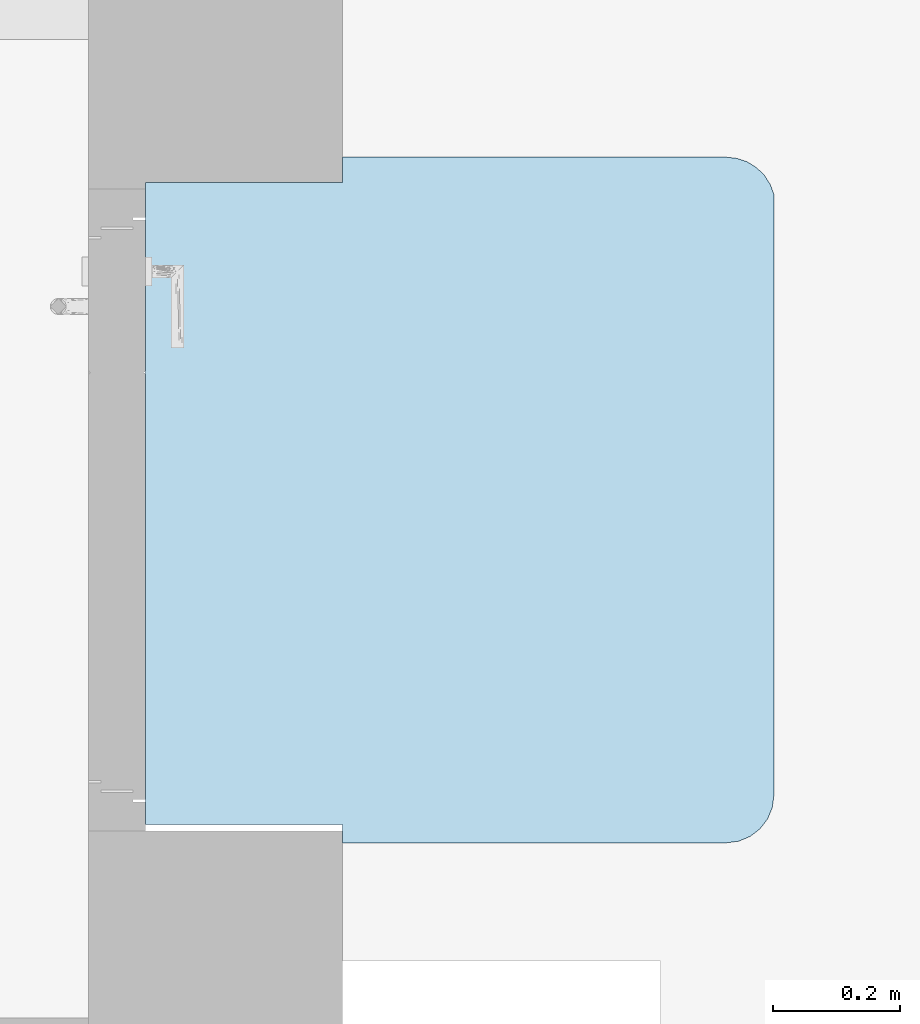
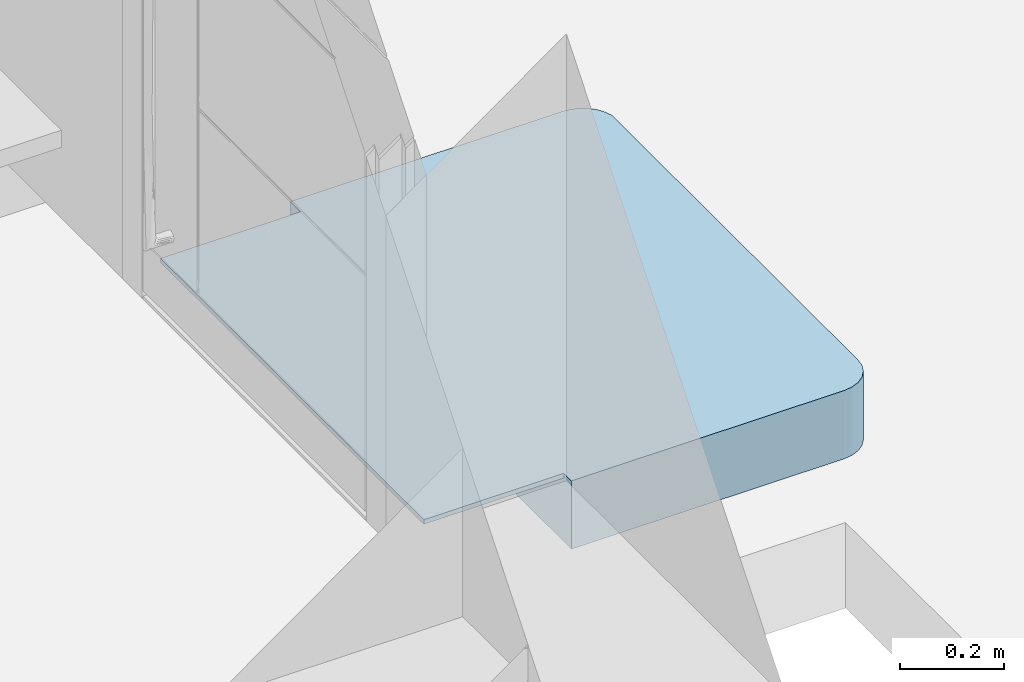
# One storey, part 5 of 18: 1 slab.
"""IFC2X3 building model written with IfcOpenShell, lengths in metres."""

from ifc_helpers import new_model, entity, si_unit, converted_unit, derived_unit, direction, frame, origin, place, context, subcontext, project, spatial, faceted_brep, material, type_object, element, save


model = new_model("IFC2X3")

# Units and contexts
model_context = context("Model", 3, precision=1e-05, world=origin(), true_north=direction((6.123233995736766e-17, 1.0)))
body_context = subcontext(model_context, "Body", "Model", "MODEL_VIEW")
ifc_project = project(units=[si_unit("LENGTHUNIT", "METRE"), si_unit("AREAUNIT", "SQUARE_METRE"), si_unit("VOLUMEUNIT", "CUBIC_METRE"), si_unit("POWERUNIT", "WATT"), derived_unit("USERDEFINED", [(si_unit("MASSUNIT", "GRAM", prefix="KILO"), 1), (si_unit("TIMEUNIT", "SECOND"), -3)]), derived_unit("THERMALRESISTANCEUNIT", [(si_unit("MASSUNIT", "GRAM", prefix="KILO"), -1), (si_unit("TIMEUNIT", "SECOND"), 3), (si_unit("THERMODYNAMICTEMPERATUREUNIT", "KELVIN"), 1)]), derived_unit("USERDEFINED", [(si_unit("MASSUNIT", "GRAM", prefix="KILO"), 1), (si_unit("TIMEUNIT", "SECOND"), -2), (si_unit("THERMODYNAMICTEMPERATUREUNIT", "KELVIN"), -1)]), derived_unit("THERMALTRANSMITTANCEUNIT", [(si_unit("MASSUNIT", "GRAM", prefix="KILO"), 1), (si_unit("TIMEUNIT", "SECOND"), -3), (si_unit("THERMODYNAMICTEMPERATUREUNIT", "KELVIN"), -1)]), converted_unit("PLANEANGLEUNIT", "DEGREE", entity("IfcPlaneAngleMeasure", 0.017453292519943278), si_unit("PLANEANGLEUNIT", "RADIAN"), dimensions=[0, 0, 0, 0, 0, 0, 0]), derived_unit("MOMENTOFINERTIAUNIT", [(si_unit("LENGTHUNIT", "METRE"), 4)])], contexts=[model_context])

# Site, building, storey
site_placement = place(None, origin())
site = spatial("IfcSite", under=ifc_project, at=site_placement, Name="Default", CompositionType="ELEMENT")
building_placement = place(site_placement, origin())
building = spatial("IfcBuilding", under=site, at=building_placement, CompositionType="ELEMENT")
storey_placement = place(building_placement, frame((0.0, 0.0, 2.6)))
storey = spatial("IfcBuildingStorey", under=building, at=storey_placement, Name="Erdgeschoss", CompositionType="ELEMENT", Elevation=2.6)

# Slab
ifc_material = material(Name="Ortbeton - bewehrt")
slab_type = type_object("IfcSlabType", Name="Geschossdecke:STB 160", PredefinedType="FLOOR")
slab_placement = place(storey_placement, origin())
element("IfcSlab", 1, at=slab_placement, inside=storey, type_object=slab_type, material=ifc_material, Name="Geschossdecke:STB 160", ObjectType="Geschossdecke:STB 160", PredefinedType="FLOOR", context=body_context, shape_type="Brep", body=[
    faceted_brep([(39.28339740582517, 20.60022500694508, -0.14921312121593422), (39.26786439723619, 20.588306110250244, -0.14921312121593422), (39.24977582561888, 20.5808135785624, -0.14921312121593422), (39.2303643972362, 20.57825801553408, -0.14921312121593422), (38.62672000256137, 20.57825801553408, -0.14921312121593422), (38.62672000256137, 21.657272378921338, -0.14921312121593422), (39.2303643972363, 21.657272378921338, -0.14921312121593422), (39.24737164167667, 21.655374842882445, -0.14921312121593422), (39.26354244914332, 21.649775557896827, -0.14921312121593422), (39.27808151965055, 21.640749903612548, -0.14921312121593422), (39.29027380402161, 21.628741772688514, -0.14921312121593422), (39.299519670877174, 21.61434173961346, -0.14921312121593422), (39.305364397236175, 21.598258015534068, -0.14921312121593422), (39.305364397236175, 20.653258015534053, -0.14921312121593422), (39.30280883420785, 20.63384658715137, -0.14921312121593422), (39.29531630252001, 20.615758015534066, -0.14921312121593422), (39.2303643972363, 21.657272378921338, 0.010786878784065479), (38.62672000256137, 21.657272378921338, 0.010786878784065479), (38.62672000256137, 21.61727237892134, 0.010786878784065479), (38.31672000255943, 21.61727237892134, 0.010786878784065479), (38.31672000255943, 20.60727237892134, 0.010786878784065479), (38.62672000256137, 20.60727237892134, 0.010786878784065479), (38.62672000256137, 20.57825801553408, 0.010786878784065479), (39.2303643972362, 20.57825801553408, 0.010786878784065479), (39.24977582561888, 20.5808135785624, 0.010786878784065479), (39.26786439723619, 20.588306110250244, 0.010786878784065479), (39.28339740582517, 20.60022500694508, 0.010786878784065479), (39.29531630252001, 20.615758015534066, 0.010786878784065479), (39.30280883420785, 20.63384658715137, 0.010786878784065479), (39.305364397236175, 20.653258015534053, 0.010786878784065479), (39.305364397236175, 21.598258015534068, 0.010786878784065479), (39.299519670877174, 21.61434173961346, 0.010786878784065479), (39.29027380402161, 21.628741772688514, 0.010786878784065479), (39.27808151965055, 21.640749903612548, 0.010786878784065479), (39.26354244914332, 21.649775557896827, 0.010786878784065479), (39.24737164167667, 21.655374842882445, 0.010786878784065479), (38.62672000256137, 20.60727237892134, 0.0), (38.62672000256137, 21.61727237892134, 0.0), (38.31672000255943, 20.60727237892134, 0.0), (38.31672000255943, 21.61727237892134, 0.0)], [[[0, 1, 2, 3, 4, 5, 6, 7, 8, 9, 10, 11, 12, 13, 14, 15]], [[16, 17, 18, 19, 20, 21, 22, 23, 24, 25, 26, 27, 28, 29, 30, 31, 32, 33, 34, 35]], [[4, 22, 21, 36, 37, 18, 17, 5]], [[38, 36, 21, 20]], [[39, 38, 20, 19]], [[37, 39, 19, 18]], [[6, 5, 17, 16]], [[4, 3, 23, 22]], [[7, 35, 34, 8]], [[8, 34, 33, 9]], [[16, 35, 7, 6]], [[10, 32, 31, 11]], [[11, 31, 30, 12]], [[9, 33, 32, 10]], [[13, 12, 30, 29]], [[27, 26, 0, 15]], [[13, 29, 28, 14]], [[15, 14, 28, 27]], [[1, 25, 24, 2]], [[2, 24, 23, 3]], [[0, 26, 25, 1]], [[37, 36, 38, 39]]]),
])

save(model, "model.ifc")
